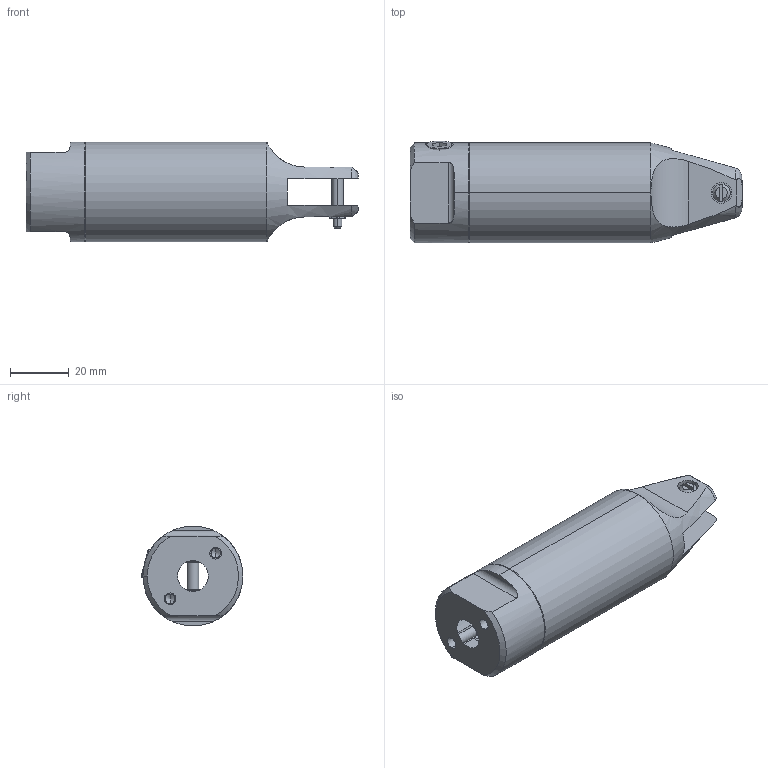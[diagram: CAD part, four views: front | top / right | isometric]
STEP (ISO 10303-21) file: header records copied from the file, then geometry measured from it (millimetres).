
FILE_DESCRIPTION (( 'STEP AP214' ), '1' );
FILE_NAME ('GT-NR7.STEP', '2019-11-28T00:56:51', ( '微软用户' ), ( '微软中国' ), 'SwSTEP 2.0', 'SolidWorks 2016', '' );
FILE_SCHEMA (( 'AUTOMOTIVE_DESIGN' ));
Length unit declared in the file: millimetre
Products named in the file (1): GT-NR7
Bounding box: 113 x 34.63 x 34 mm (x, y, z)
Surface area: 15069.7 mm2 (no closed solid volume)
Topology: 0 solids, 4 shells, 135 faces, 322 edges, 199 vertices
Faces by surface type: plane 57, cylinder 38, cone 36, bspline 4
Entity records: 4851 total; most frequent: CARTESIAN_POINT 1768, DIRECTION 626, ORIENTED_EDGE 618, EDGE_CURVE 316, AXIS2_PLACEMENT_3D 254, VERTEX_POINT 199, EDGE_LOOP 154, FACE_OUTER_BOUND 135
